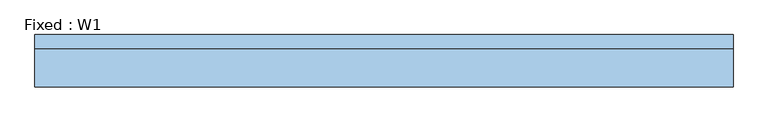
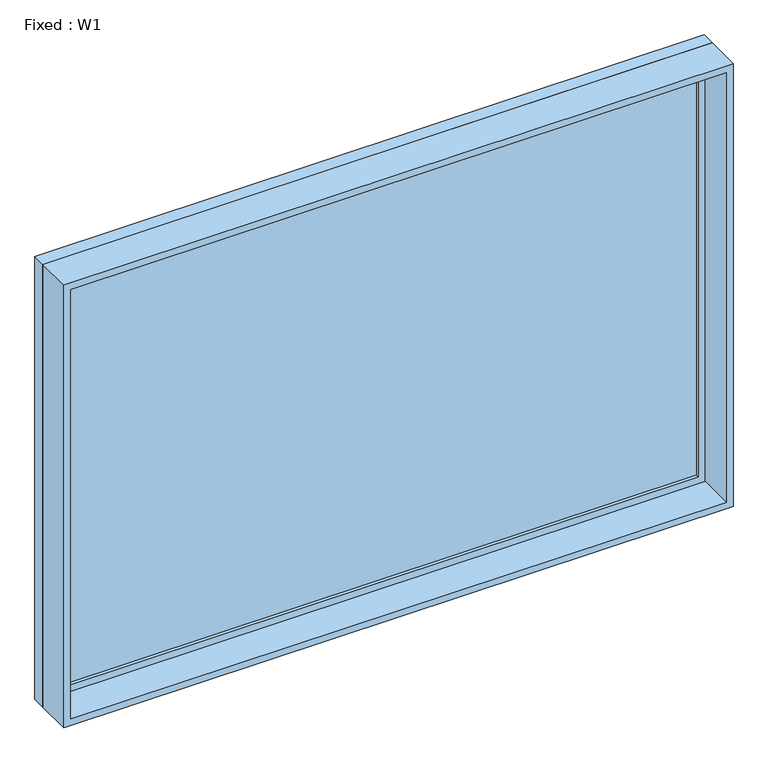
"""IFC4 building model written with IfcOpenShell, lengths in millimetres: window geometry, Fixed : W1."""

from ifc_helpers import new_model, si_unit, frame, origin, place, context, project, spatial, polyline, outline, extrude, source, transform, mapped, element, save


def fixed_w1_e8647365(model_context):
    return source(origin(), model_context, "Body", "SweptSolid", [
        extrude(outline(polyline([(1422.4, 66.675), (-1498.6, 66.675), (-1498.6, 79.375), (1422.4, 79.375), (1422.4, 66.675)])), frame((0.0, 0.0, 977.9), z_axis=(0.0, 0.0, 1.0), x_axis=(1.0, 0.0, 0.0)), (0.0, 0.0, 1.0), 2006.6),
        extrude(outline(polyline([(3028.95, -1543.05), (933.45, -1543.05), (933.45, 1466.85), (3028.95, 1466.85), (3028.95, -1543.05)]), holes=[polyline([(2984.5, -1498.6), (2984.5, 1422.4), (977.9, 1422.4), (977.9, -1498.6), (2984.5, -1498.6)])]), frame((0.0, 50.8, 0.0), z_axis=(0.0, 1.0, 0.0), x_axis=(0.0, 0.0, 1.0)), (0.0, 0.0, 1.0), 44.45),
        extrude(outline(polyline([(3048.0, -1562.1), (914.4, -1562.1), (914.4, 1485.9), (3048.0, 1485.9), (3048.0, -1562.1)]), holes=[polyline([(3016.25, -1530.35), (3016.25, 1454.15), (946.15, 1454.15), (946.15, -1530.35), (3016.25, -1530.35)])]), frame((0.0, -114.3, 0.0), z_axis=(0.0, 1.0, 0.0), x_axis=(0.0, 0.0, 1.0)), (0.0, 0.0, 1.0), 165.1),
        extrude(outline(polyline([(3048.0, 1485.9), (3048.0, -1562.1), (914.4, -1562.1), (914.4, 1485.9), (3048.0, 1485.9)]), holes=[polyline([(3028.95, 1466.85), (933.45, 1466.85), (933.45, -1543.05), (3028.95, -1543.05), (3028.95, 1466.85)])]), frame((0.0, 50.8, 0.0), z_axis=(0.0, 1.0, 0.0), x_axis=(0.0, 0.0, 1.0)), (0.0, 0.0, 1.0), 63.5),
    ])


if __name__ == "__main__":
    model = new_model("IFC4")
    model_context = context("Model", 3, world=origin())
    ifc_project = project(units=[si_unit("LENGTHUNIT", "METRE", prefix="MILLI")], contexts=[model_context])
    site = spatial("IfcSite", under=ifc_project)
    building = spatial("IfcBuilding", under=site)
    placement = place(None, origin())
    fixed_w1_shape = fixed_w1_e8647365(model_context)
    element("IfcWindow", 1, ObjectType="Fixed : W1", at=placement, inside=building, context=model_context, shape_type="MappedRepresentation", body=[
        mapped(fixed_w1_shape, transform((0.0, 0.0, 0.0), x_axis=(1.0, 0.0, 0.0), y_axis=(0.0, 1.0, 0.0), z_axis=(0.0, 0.0, 1.0))),
    ])
    save(model, "model.ifc")
